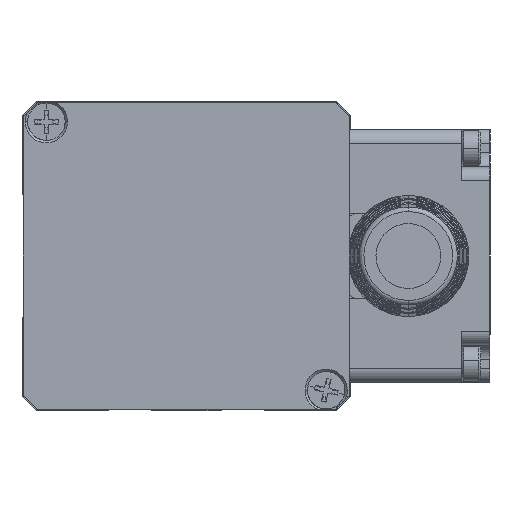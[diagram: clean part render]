
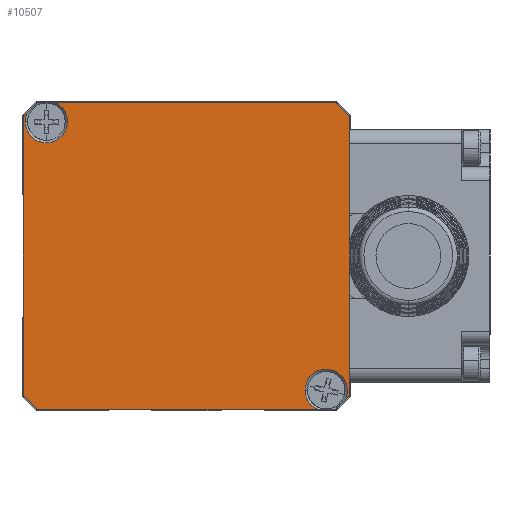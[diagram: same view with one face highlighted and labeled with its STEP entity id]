
A CAD part, front view. The second image highlights one B-rep face of the part: STEP entity #10507.
In plain terms, the highlighted planar face has unit normal (0, -1, 0).
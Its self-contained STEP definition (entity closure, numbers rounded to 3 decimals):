
#433 = DIRECTION ( 'NONE',  ( 0.707, 0., 0.707 ) ) ;
#672 = DIRECTION ( 'NONE',  ( 0., 0., 1. ) ) ;
#774 = EDGE_CURVE ( 'NONE', #38955, #28457, #8857, .T. ) ;
#1145 = CIRCLE ( 'NONE', #4363, 2.25 ) ;
#2143 = CARTESIAN_POINT ( 'NONE',  ( -17.35, -22.5, 15.85 ) ) ;
#2236 = EDGE_LOOP ( 'NONE', ( #2437, #33812, #25032, #19927, #32092, #19468, #31691, #34564, #27383, #3543, #38127, #20334, #16130, #40057 ) ) ;
#2437 = ORIENTED_EDGE ( 'NONE', *, *, #26139, .F. ) ;
#2449 = CARTESIAN_POINT ( 'NONE',  ( 17.35, -22.5, -13.85 ) ) ;
#2514 = CARTESIAN_POINT ( 'NONE',  ( -15.85, -22.5, 17.35 ) ) ;
#2967 = DIRECTION ( 'NONE',  ( -1., 0., 0. ) ) ;
#2984 = CARTESIAN_POINT ( 'NONE',  ( -14.9, -22.5, 15.3 ) ) ;
#3284 = AXIS2_PLACEMENT_3D ( 'NONE', #18161, #36456, #27021 ) ;
#3543 = ORIENTED_EDGE ( 'NONE', *, *, #12320, .F. ) ;
#3673 = CARTESIAN_POINT ( 'NONE',  ( -15.85, -22.5, -15.35 ) ) ;
#4049 = DIRECTION ( 'NONE',  ( -1., 0., 0. ) ) ;
#4099 = DIRECTION ( 'NONE',  ( -1., 0., 0. ) ) ;
#4363 = AXIS2_PLACEMENT_3D ( 'NONE', #24378, #37548, #2967 ) ;
#5125 = CARTESIAN_POINT ( 'NONE',  ( -16.93, -22.5, 16.27 ) ) ;
#5203 = DIRECTION ( 'NONE',  ( -1., 0., 0. ) ) ;
#5644 = DIRECTION ( 'NONE',  ( -1., 0., 0. ) ) ;
#5768 = DIRECTION ( 'NONE',  ( -0.707, 0., 0.707 ) ) ;
#7089 = LINE ( 'NONE', #34939, #14713 ) ;
#7306 = DIRECTION ( 'NONE',  ( 0.707, 0., -0.707 ) ) ;
#7700 = VECTOR ( 'NONE', #672, 1000. ) ;
#8721 = DIRECTION ( 'NONE',  ( 0., -1., 0. ) ) ;
#8857 = LINE ( 'NONE', #2514, #37359 ) ;
#8862 = CARTESIAN_POINT ( 'NONE',  ( 16.93, -22.5, -14.27 ) ) ;
#8881 = LINE ( 'NONE', #27243, #13214 ) ;
#10425 = VERTEX_POINT ( 'NONE', #3673 ) ;
#10507 = ADVANCED_FACE ( 'NONE', ( #16849 ), #17256, .F. ) ;
#10845 = CARTESIAN_POINT ( 'NONE',  ( 17.15, -22.5, -13.3 ) ) ;
#11565 = VECTOR ( 'NONE', #5768, 1000. ) ;
#12320 = EDGE_CURVE ( 'NONE', #33616, #13554, #38578, .T. ) ;
#12328 = LINE ( 'NONE', #16023, #26484 ) ;
#12523 = VERTEX_POINT ( 'NONE', #2449 ) ;
#12632 = EDGE_CURVE ( 'NONE', #27979, #28457, #31525, .T. ) ;
#12893 = DIRECTION ( 'NONE',  ( 1., 0., 0. ) ) ;
#13214 = VECTOR ( 'NONE', #23736, 1000. ) ;
#13554 = VERTEX_POINT ( 'NONE', #39920 ) ;
#14094 = AXIS2_PLACEMENT_3D ( 'NONE', #2984, #8721, #5644 ) ;
#14146 = DIRECTION ( 'NONE',  ( 1., 0., 0. ) ) ;
#14713 = VECTOR ( 'NONE', #12893, 1000. ) ;
#14940 = CARTESIAN_POINT ( 'NONE',  ( 13.973, -22.5, -15.35 ) ) ;
#16023 = CARTESIAN_POINT ( 'NONE',  ( 15.85, -22.5, -15.35 ) ) ;
#16130 = ORIENTED_EDGE ( 'NONE', *, *, #36681, .F. ) ;
#16598 = LINE ( 'NONE', #29136, #37358 ) ;
#16849 = FACE_OUTER_BOUND ( 'NONE', #2236, .T. ) ;
#17256 = PLANE ( 'NONE',  #39238 ) ;
#17401 = EDGE_CURVE ( 'NONE', #27979, #10425, #16598, .T. ) ;
#17555 = CARTESIAN_POINT ( 'NONE',  ( -17.35, -22.5, -15.35 ) ) ;
#17622 = VERTEX_POINT ( 'NONE', #20014 ) ;
#17763 = CIRCLE ( 'NONE', #3284, 2.25 ) ;
#18161 = CARTESIAN_POINT ( 'NONE',  ( 14.9, -22.5, -13.3 ) ) ;
#18632 = VERTEX_POINT ( 'NONE', #30912 ) ;
#19468 = ORIENTED_EDGE ( 'NONE', *, *, #12632, .F. ) ;
#19526 = CARTESIAN_POINT ( 'NONE',  ( 14.9, -22.5, -13.3 ) ) ;
#19631 = EDGE_CURVE ( 'NONE', #39490, #33616, #27794, .T. ) ;
#19927 = ORIENTED_EDGE ( 'NONE', *, *, #27573, .F. ) ;
#20014 = CARTESIAN_POINT ( 'NONE',  ( 17.35, -22.5, 15.85 ) ) ;
#20038 = EDGE_CURVE ( 'NONE', #21351, #10425, #24337, .T. ) ;
#20110 = DIRECTION ( 'NONE',  ( 0., 1., 0. ) ) ;
#20334 = ORIENTED_EDGE ( 'NONE', *, *, #36957, .T. ) ;
#20678 = CARTESIAN_POINT ( 'NONE',  ( -12.65, -22.5, 15.3 ) ) ;
#20798 = LINE ( 'NONE', #39513, #11565 ) ;
#20824 = AXIS2_PLACEMENT_3D ( 'NONE', #19526, #32325, #4099 ) ;
#21351 = VERTEX_POINT ( 'NONE', #14940 ) ;
#23059 = CARTESIAN_POINT ( 'NONE',  ( 15.85, -22.5, 17.35 ) ) ;
#23132 = EDGE_CURVE ( 'NONE', #17622, #31994, #20798, .T. ) ;
#23619 = EDGE_CURVE ( 'NONE', #36429, #35225, #1145, .T. ) ;
#23736 = DIRECTION ( 'NONE',  ( 0., 0., -1. ) ) ;
#24337 = LINE ( 'NONE', #17555, #33751 ) ;
#24378 = CARTESIAN_POINT ( 'NONE',  ( -14.9, -22.5, 15.3 ) ) ;
#24725 = DIRECTION ( 'NONE',  ( -0.707, 0., -0.707 ) ) ;
#25032 = ORIENTED_EDGE ( 'NONE', *, *, #26425, .F. ) ;
#25133 = CARTESIAN_POINT ( 'NONE',  ( -17.35, -22.5, -15.35 ) ) ;
#25286 = CIRCLE ( 'NONE', #39699, 2.25 ) ;
#26139 = EDGE_CURVE ( 'NONE', #35225, #31994, #7089, .T. ) ;
#26425 = EDGE_CURVE ( 'NONE', #18632, #36429, #33825, .T. ) ;
#26484 = VECTOR ( 'NONE', #433, 1000. ) ;
#27021 = DIRECTION ( 'NONE',  ( -1., 0., 0. ) ) ;
#27228 = DIRECTION ( 'NONE',  ( 0., -1., 0. ) ) ;
#27243 = CARTESIAN_POINT ( 'NONE',  ( 17.35, -22.5, -15.35 ) ) ;
#27383 = ORIENTED_EDGE ( 'NONE', *, *, #38684, .F. ) ;
#27573 = EDGE_CURVE ( 'NONE', #38955, #18632, #25286, .T. ) ;
#27794 = CIRCLE ( 'NONE', #29094, 2.25 ) ;
#27979 = VERTEX_POINT ( 'NONE', #40292 ) ;
#28457 = VERTEX_POINT ( 'NONE', #2143 ) ;
#29094 = AXIS2_PLACEMENT_3D ( 'NONE', #30309, #27228, #38939 ) ;
#29136 = CARTESIAN_POINT ( 'NONE',  ( -17.35, -22.5, -13.85 ) ) ;
#29381 = CARTESIAN_POINT ( 'NONE',  ( 0., -22.5, 1. ) ) ;
#30309 = CARTESIAN_POINT ( 'NONE',  ( 14.9, -22.5, -13.3 ) ) ;
#30912 = CARTESIAN_POINT ( 'NONE',  ( -17.15, -22.5, 15.3 ) ) ;
#31525 = LINE ( 'NONE', #25133, #7700 ) ;
#31691 = ORIENTED_EDGE ( 'NONE', *, *, #17401, .T. ) ;
#31994 = VERTEX_POINT ( 'NONE', #23059 ) ;
#32092 = ORIENTED_EDGE ( 'NONE', *, *, #774, .T. ) ;
#32271 = DIRECTION ( 'NONE',  ( 0., -1., 0. ) ) ;
#32325 = DIRECTION ( 'NONE',  ( 0., -1., 0. ) ) ;
#33616 = VERTEX_POINT ( 'NONE', #10845 ) ;
#33751 = VECTOR ( 'NONE', #5203, 1000. ) ;
#33812 = ORIENTED_EDGE ( 'NONE', *, *, #23619, .F. ) ;
#33825 = CIRCLE ( 'NONE', #14094, 2.25 ) ;
#34564 = ORIENTED_EDGE ( 'NONE', *, *, #20038, .F. ) ;
#34939 = CARTESIAN_POINT ( 'NONE',  ( -17.35, -22.5, 17.35 ) ) ;
#35225 = VERTEX_POINT ( 'NONE', #36174 ) ;
#36174 = CARTESIAN_POINT ( 'NONE',  ( -13.973, -22.5, 17.35 ) ) ;
#36429 = VERTEX_POINT ( 'NONE', #20678 ) ;
#36456 = DIRECTION ( 'NONE',  ( 0., -1., 0. ) ) ;
#36681 = EDGE_CURVE ( 'NONE', #17622, #12523, #8881, .T. ) ;
#36957 = EDGE_CURVE ( 'NONE', #39490, #12523, #12328, .T. ) ;
#37358 = VECTOR ( 'NONE', #7306, 1000. ) ;
#37359 = VECTOR ( 'NONE', #24725, 1000. ) ;
#37548 = DIRECTION ( 'NONE',  ( 0., -1., 0. ) ) ;
#38127 = ORIENTED_EDGE ( 'NONE', *, *, #19631, .F. ) ;
#38410 = CARTESIAN_POINT ( 'NONE',  ( -14.9, -22.5, 15.3 ) ) ;
#38578 = CIRCLE ( 'NONE', #20824, 2.25 ) ;
#38684 = EDGE_CURVE ( 'NONE', #13554, #21351, #17763, .T. ) ;
#38939 = DIRECTION ( 'NONE',  ( -1., 0., 0. ) ) ;
#38955 = VERTEX_POINT ( 'NONE', #5125 ) ;
#39238 = AXIS2_PLACEMENT_3D ( 'NONE', #29381, #20110, #14146 ) ;
#39490 = VERTEX_POINT ( 'NONE', #8862 ) ;
#39513 = CARTESIAN_POINT ( 'NONE',  ( 17.35, -22.5, 15.85 ) ) ;
#39699 = AXIS2_PLACEMENT_3D ( 'NONE', #38410, #32271, #4049 ) ;
#39920 = CARTESIAN_POINT ( 'NONE',  ( 12.65, -22.5, -13.3 ) ) ;
#40057 = ORIENTED_EDGE ( 'NONE', *, *, #23132, .T. ) ;
#40292 = CARTESIAN_POINT ( 'NONE',  ( -17.35, -22.5, -13.85 ) ) ;
